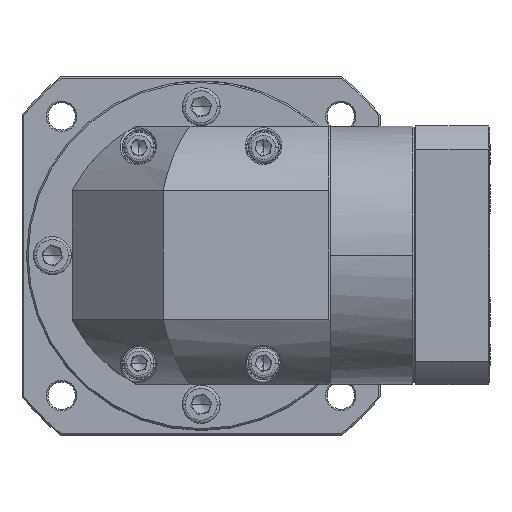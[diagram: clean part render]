
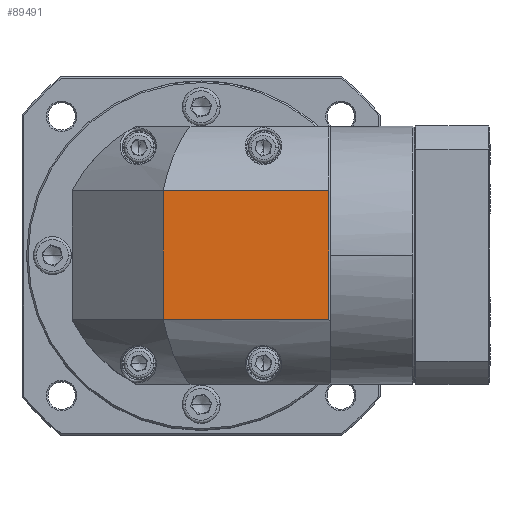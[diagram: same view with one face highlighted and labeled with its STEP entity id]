
A CAD part, top view. The second image highlights one B-rep face of the part: STEP entity #89491.
In plain terms, the highlighted planar face has unit normal (0, 0, 1).
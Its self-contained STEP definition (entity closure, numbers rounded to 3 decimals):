
#25 = LINE ( 'NONE', #17850, #57675 ) ;
#2192 = CARTESIAN_POINT ( 'NONE',  ( -5.935, 53.293, 28.565 ) ) ;
#4748 = ORIENTED_EDGE ( 'NONE', *, *, #71990, .F. ) ;
#16519 = ORIENTED_EDGE ( 'NONE', *, *, #41701, .T. ) ;
#17850 = CARTESIAN_POINT ( 'NONE',  ( 94.065, 74.506, 28.565 ) ) ;
#18136 = VECTOR ( 'NONE', #21017, 1000. ) ;
#21017 = DIRECTION ( 'NONE',  ( 0., 1., 0. ) ) ;
#37065 = VERTEX_POINT ( 'NONE', #110800 ) ;
#39445 = EDGE_CURVE ( 'NONE', #111118, #59862, #64639, .T. ) ;
#40865 = CARTESIAN_POINT ( 'NONE',  ( 52.065, 74.506, 28.565 ) ) ;
#41701 = EDGE_CURVE ( 'NONE', #37065, #59862, #25, .T. ) ;
#57675 = VECTOR ( 'NONE', #104084, 1000. ) ;
#58644 = CARTESIAN_POINT ( 'NONE',  ( 39.565, 95.719, 28.565 ) ) ;
#59862 = VERTEX_POINT ( 'NONE', #86876 ) ;
#62136 = PLANE ( 'NONE',  #84258 ) ;
#62427 = EDGE_CURVE ( 'NONE', #37065, #81970, #118436, .T. ) ;
#64639 = LINE ( 'NONE', #102070, #103790 ) ;
#71990 = EDGE_CURVE ( 'NONE', #81970, #111118, #72288, .T. ) ;
#72288 = LINE ( 'NONE', #128931, #18136 ) ;
#81970 = VERTEX_POINT ( 'NONE', #132038 ) ;
#84258 = AXIS2_PLACEMENT_3D ( 'NONE', #40865, #115261, #93923 ) ;
#85797 = ORIENTED_EDGE ( 'NONE', *, *, #62427, .F. ) ;
#86876 = CARTESIAN_POINT ( 'NONE',  ( 94.065, 95.719, 28.565 ) ) ;
#89491 = ADVANCED_FACE ( 'NONE', ( #136016 ), #62136, .T. ) ;
#93923 = DIRECTION ( 'NONE',  ( 1., 0., 0. ) ) ;
#102070 = CARTESIAN_POINT ( 'NONE',  ( -5.935, 95.719, 28.565 ) ) ;
#103790 = VECTOR ( 'NONE', #125241, 1000. ) ;
#104084 = DIRECTION ( 'NONE',  ( 0., 1., 0. ) ) ;
#110800 = CARTESIAN_POINT ( 'NONE',  ( 94.065, 53.293, 28.565 ) ) ;
#111118 = VERTEX_POINT ( 'NONE', #58644 ) ;
#111623 = DIRECTION ( 'NONE',  ( -1., 0., 0. ) ) ;
#115261 = DIRECTION ( 'NONE',  ( 0., 0., 1. ) ) ;
#115552 = EDGE_LOOP ( 'NONE', ( #119798, #4748, #85797, #16519 ) ) ;
#118436 = LINE ( 'NONE', #2192, #135441 ) ;
#119798 = ORIENTED_EDGE ( 'NONE', *, *, #39445, .F. ) ;
#125241 = DIRECTION ( 'NONE',  ( 1., 0., 0. ) ) ;
#128931 = CARTESIAN_POINT ( 'NONE',  ( 39.565, 74.506, 28.565 ) ) ;
#132038 = CARTESIAN_POINT ( 'NONE',  ( 39.565, 53.293, 28.565 ) ) ;
#135441 = VECTOR ( 'NONE', #111623, 1000. ) ;
#136016 = FACE_OUTER_BOUND ( 'NONE', #115552, .T. ) ;
